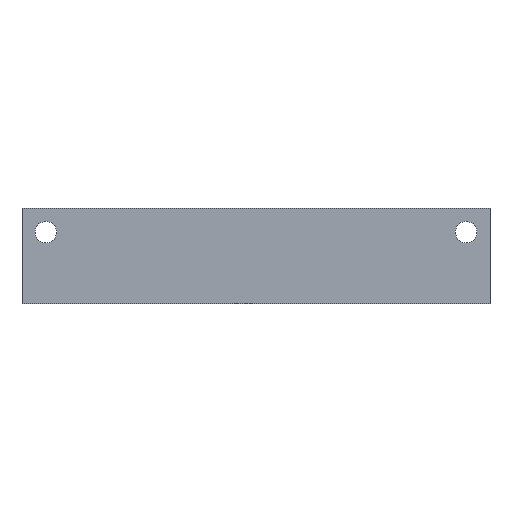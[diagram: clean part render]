
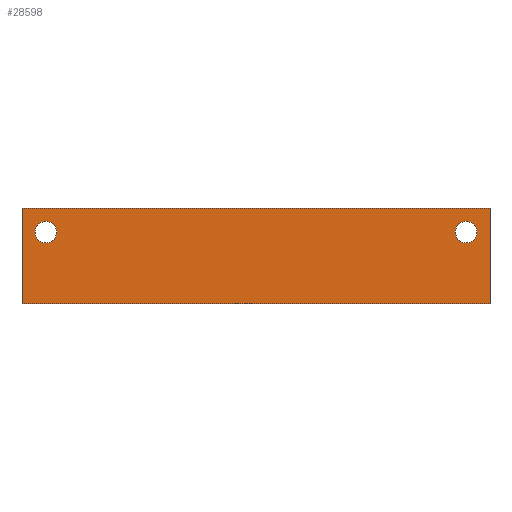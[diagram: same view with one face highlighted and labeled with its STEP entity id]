
A CAD part, front view. The second image highlights one B-rep face of the part: STEP entity #28598.
In plain terms, the highlighted planar face has unit normal (0, -1, 0).
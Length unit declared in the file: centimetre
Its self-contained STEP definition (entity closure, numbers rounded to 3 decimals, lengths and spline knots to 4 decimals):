
#1775=VECTOR('',#31194,1.);
#2870=VECTOR('',#33129,1.);
#2882=VECTOR('',#33142,1.);
#2884=VECTOR('',#33148,1.);
#4801=LINE('',#38707,#1775);
#5884=LINE('',#47132,#2870);
#5896=LINE('',#47153,#2882);
#5898=LINE('',#47159,#2884);
#7792=VERTEX_POINT('',#38681);
#7803=VERTEX_POINT('',#38706);
#7804=VERTEX_POINT('',#38708);
#8898=VERTEX_POINT('',#47133);
#8905=VERTEX_POINT('',#47152);
#8906=VERTEX_POINT('',#47158);
#10364=CIRCLE('',#58838,0.225);
#10509=CIRCLE('',#59439,0.225);
#11216=EDGE_CURVE('',#7792,#7792,#10364,.T.);
#11229=EDGE_CURVE('',#7804,#7803,#4801,.T.);
#12911=EDGE_CURVE('',#7804,#8898,#5884,.T.);
#12923=EDGE_CURVE('',#8905,#7803,#5896,.T.);
#12925=EDGE_CURVE('',#8906,#8906,#10509,.T.);
#12926=EDGE_CURVE('',#8898,#8905,#5898,.T.);
#19416=ORIENTED_EDGE('',*,*,#11216,.F.);
#19417=ORIENTED_EDGE('',*,*,#12925,.T.);
#19418=ORIENTED_EDGE('',*,*,#12923,.F.);
#19419=ORIENTED_EDGE('',*,*,#12926,.F.);
#19420=ORIENTED_EDGE('',*,*,#12911,.F.);
#19421=ORIENTED_EDGE('',*,*,#11229,.T.);
#24907=EDGE_LOOP('',(#19416));
#24908=EDGE_LOOP('',(#19417));
#24909=EDGE_LOOP('',(#19418,#19419,#19420,#19421));
#26796=FACE_BOUND('',#24907,.T.);
#26797=FACE_BOUND('',#24908,.T.);
#26798=FACE_BOUND('',#24909,.T.);
#28598=ADVANCED_FACE('',(#26796,#26797,#26798),#29988,.F.);
#29988=PLANE('',#59438);
#31178=DIRECTION('',(0.,-1.,0.));
#31179=DIRECTION('',(-0.225,0.,0.));
#31194=DIRECTION('',(0.,0.,1.));
#33129=DIRECTION('',(-1.,0.,0.));
#33142=DIRECTION('',(1.,0.,0.));
#33145=DIRECTION('',(0.,1.,0.));
#33146=DIRECTION('',(0.,1.,0.));
#33147=DIRECTION('',(0.225,0.,0.));
#33148=DIRECTION('',(0.,0.,1.));
#38680=CARTESIAN_POINT('',(6.5,0.,0.5));
#38681=CARTESIAN_POINT('',(6.725,0.,0.5));
#38706=CARTESIAN_POINT('',(7.,0.,1.));
#38707=CARTESIAN_POINT('',(7.,0.,-1.));
#38708=CARTESIAN_POINT('',(7.,0.,-1.));
#47132=CARTESIAN_POINT('',(-1.,0.,-1.));
#47133=CARTESIAN_POINT('',(-2.8,0.,-1.));
#47152=CARTESIAN_POINT('',(-2.8,0.,1.));
#47153=CARTESIAN_POINT('',(-2.8,0.,1.));
#47156=CARTESIAN_POINT('',(0.5,0.,0.));
#47157=CARTESIAN_POINT('',(-2.3,0.,0.5));
#47158=CARTESIAN_POINT('',(-2.525,0.,0.5));
#47159=CARTESIAN_POINT('',(-2.8,0.,-1.));
#58838=AXIS2_PLACEMENT_3D('',#38680,#31178,#31179);
#59438=AXIS2_PLACEMENT_3D('',#47156,#33145,$);
#59439=AXIS2_PLACEMENT_3D('',#47157,#33146,#33147);
